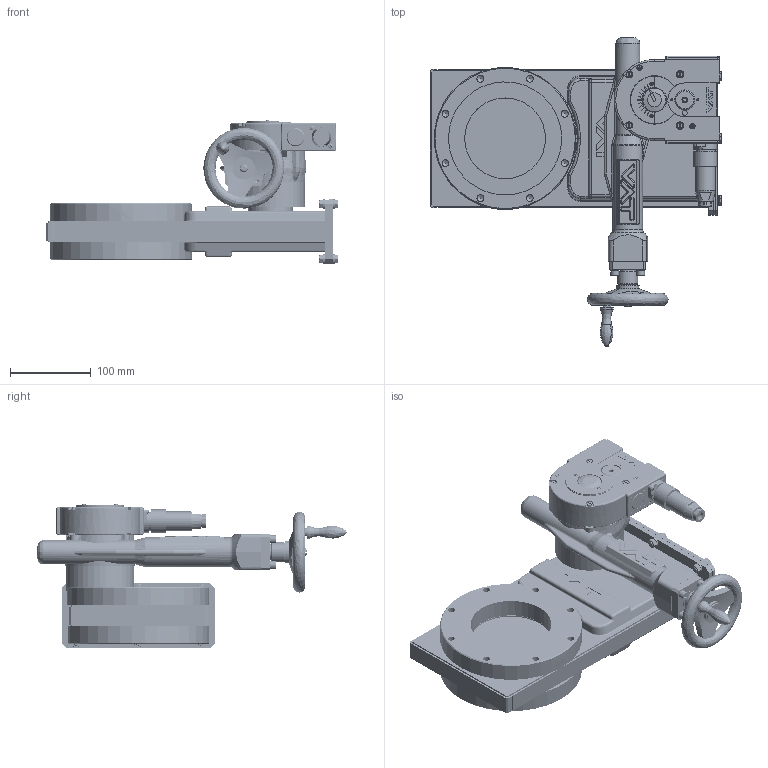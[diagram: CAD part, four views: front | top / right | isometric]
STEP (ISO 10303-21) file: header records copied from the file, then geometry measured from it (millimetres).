
FILE_DESCRIPTION(/* description */ (''),/* implementation_level */ '2;1');
FILE_NAME(/* name */ '1929515230_203.stp',/* time_stamp */ '2015-04-20T10:11:52+02:00',/* author */ (''),/* organization */ (''),/* preprocessor_version */ 'ST-DEVELOPER v11',/* originating_system */ 'SIEMENS PLM Software NX 7.5',/* authorisation */ '');
FILE_SCHEMA (('AP203_CONFIGURATION_CONTROLLED_3D_DESIGN_OF_MECHANICAL_PARTS_AND_ASSEMBLIES_MIM_LF'));
Products named in the file (45): n-6005-790; 262954.1; 262951.1; 47472-01.2; 47471-01.2; 47471-03.2; 90389-01.1; 45736-05.1; n-6162-406; N-7019-040.1; N-6022-102.1; N-5021-469.1; N-6137-005.1; N-6148-059.1; 222672.3; 47407-01.1; 47440-01.1; 222673.3; 82974-01.1; 47370-01.3; 82974-01.1_18562ID; 92157-01.2; N-6160-410.1; 60538-01_2.1; n-8504-002; 60538-01.1; 60532-01_1.2; N-6027-015.3; 60539-01.1; N-6029-102.1; N-8504-102.3; N-6289-133.2; N-6029-112.1; N-6016-123.1; 77777-01.1; N-6131-413.1; N-6053-411.2; N-5021-456.1; 77779-01.2; 224810_MODEL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
Assembly tree (85 placements, depth 4):
  793955
    47538-r1.3_MODEL
      47470-R1.3
        45736-05.1  x2
        90389-01.1
        47471-03.2
        47471-01.2
        47472-01.2
      82974-01.1_18562ID
      47370-01.3
      82974-01.1
    77779-01.2
    N-5021-456.1  x6
    N-6053-411.2  x6
    N-6131-413.1  x12
    77777-01.1
    N-6016-123.1  x4
    N-6029-112.1  x2
    N-6289-133.2
    N-8504-102.3
    N-6029-102.1  x2
    60539-01.1
    N-6027-015.3  x4
    60532-01_1.2  x2
    60538-01.1
    n-8504-002
    60538-01_2.1
    N-6160-410.1  x2
    92157-01.2
    385917
      222673.3
      263050.1
        262951.1
        262954.1
      47440-01.1
      47407-01.1
      222672.3
      N-6148-059.1
      N-6137-005.1
      N-5021-469.1  x2
      N-6160-410.1  x2
      N-6022-102.1
      N-7019-040.1
      n-6162-406  x4
      224810_MODEL  x4
        n-6005-790
Bounding box: 361.6 x 382.95 x 178.45 mm (x, y, z)
Volume: 2088885.2 mm3; surface area: 798825.6 mm2
Topology: 113 solids, 113 shells, 2922 faces, 6698 edges, 4247 vertices
Faces by surface type: plane 1398, cylinder 918, bspline 263, cone 231, torus 67, sphere 25, extrusion 12, revolution 8
Full cylindrical faces by diameter (mm): 1.5 x7, 1.66 x7, 1.8 x7, 2 x24, 2.2 x2, 2.25 x20, 2.45 x20, 2.5 x1, 2.55 x4, 2.657 x1, 2.9 x6, 3 x12, 3.025 x8, 3.07 x12, 3.2 x4, 3.251 x1, 3.26 x4, 3.28 x8, 3.3 x8, 3.6 x2, 4 x4, 4.2 x2, 4.55 x8, 4.96 x12, 5 x13, 5.05 x2, 5.09 x2, 5.2 x10, 5.5 x4, 5.6 x2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
Entity records: 73169 total; most frequent: CARTESIAN_POINT 20350, DIRECTION 9572, ORIENTED_EDGE 8690, EDGE_CURVE 4345, AXIS2_PLACEMENT_3D 3737, VERTEX_POINT 3030, EDGE_LOOP 2894, VECTOR 2090
